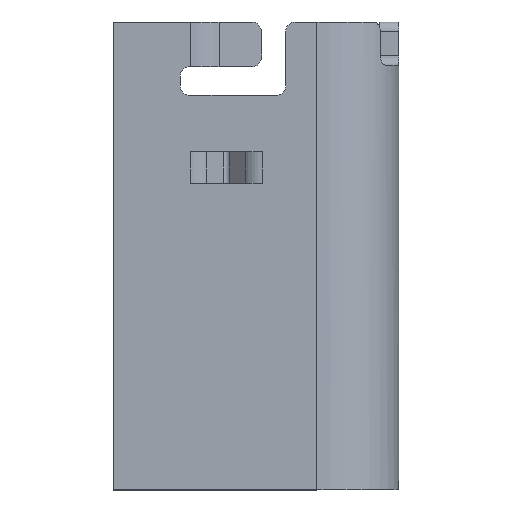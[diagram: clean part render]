
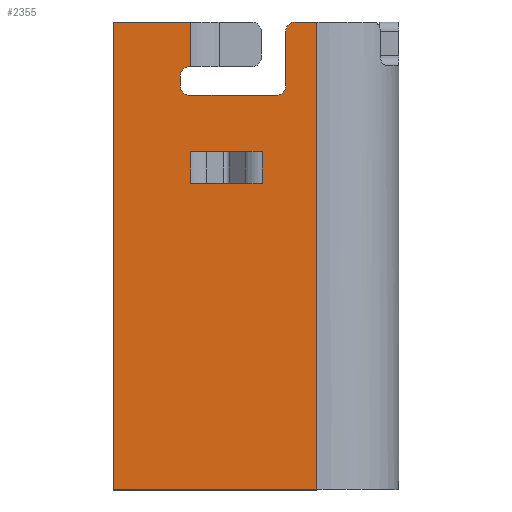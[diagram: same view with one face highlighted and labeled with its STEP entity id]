
A CAD part, top view. The second image highlights one B-rep face of the part: STEP entity #2355.
In plain terms, the highlighted planar face has unit normal (0, 0, 1).
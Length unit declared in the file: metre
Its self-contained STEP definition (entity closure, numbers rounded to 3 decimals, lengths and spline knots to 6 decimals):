
#51=PLANE('',#3229);
#116=LINE('',#4087,#350);
#117=LINE('',#4093,#351);
#118=LINE('',#4097,#352);
#122=LINE('',#4113,#356);
#128=LINE('',#4122,#362);
#130=LINE('',#4125,#364);
#133=LINE('',#4131,#367);
#135=LINE('',#4139,#369);
#140=LINE('',#4149,#374);
#144=LINE('',#4161,#378);
#169=LINE('',#4240,#403);
#212=LINE('',#4419,#446);
#213=LINE('',#4421,#447);
#214=LINE('',#4423,#448);
#350=VECTOR('',#3415,1.);
#351=VECTOR('',#3422,1.);
#352=VECTOR('',#3427,1.);
#356=VECTOR('',#3443,1.);
#362=VECTOR('',#3455,1.);
#364=VECTOR('',#3459,1.);
#367=VECTOR('',#3464,1.);
#369=VECTOR('',#3474,1.);
#374=VECTOR('',#3481,1.);
#378=VECTOR('',#3493,1.);
#403=VECTOR('',#3570,1.);
#446=VECTOR('',#3701,1.);
#447=VECTOR('',#3704,1.);
#448=VECTOR('',#3705,1.);
#854=ORIENTED_EDGE('',*,*,#1298,.F.);
#855=ORIENTED_EDGE('',*,*,#1282,.F.);
#856=ORIENTED_EDGE('',*,*,#1300,.F.);
#857=ORIENTED_EDGE('',*,*,#1279,.T.);
#858=ORIENTED_EDGE('',*,*,#1321,.T.);
#859=ORIENTED_EDGE('',*,*,#1318,.F.);
#860=ORIENTED_EDGE('',*,*,#1315,.T.);
#861=ORIENTED_EDGE('',*,*,#1312,.F.);
#862=ORIENTED_EDGE('',*,*,#1304,.F.);
#863=ORIENTED_EDGE('',*,*,#1303,.F.);
#864=ORIENTED_EDGE('',*,*,#1290,.T.);
#865=ORIENTED_EDGE('',*,*,#1292,.F.);
#866=ORIENTED_EDGE('',*,*,#1284,.T.);
#867=ORIENTED_EDGE('',*,*,#1307,.F.);
#868=ORIENTED_EDGE('',*,*,#1426,.F.);
#869=ORIENTED_EDGE('',*,*,#1427,.T.);
#870=ORIENTED_EDGE('',*,*,#1428,.T.);
#871=ORIENTED_EDGE('',*,*,#1357,.F.);
#1279=EDGE_CURVE('',#1608,#1607,#116,.T.);
#1282=EDGE_CURVE('',#1609,#1610,#117,.T.);
#1284=EDGE_CURVE('',#1611,#1612,#118,.T.);
#1290=EDGE_CURVE('',#1613,#1616,#1812,.T.);
#1292=EDGE_CURVE('',#1611,#1616,#122,.T.);
#1298=EDGE_CURVE('',#1610,#1607,#128,.T.);
#1300=EDGE_CURVE('',#1608,#1609,#130,.T.);
#1303=EDGE_CURVE('',#1613,#1617,#133,.T.);
#1304=EDGE_CURVE('',#1617,#1619,#1813,.T.);
#1307=EDGE_CURVE('',#1621,#1612,#135,.T.);
#1312=EDGE_CURVE('',#1619,#1623,#140,.T.);
#1315=EDGE_CURVE('',#1625,#1623,#1816,.T.);
#1318=EDGE_CURVE('',#1625,#1627,#144,.T.);
#1321=EDGE_CURVE('',#1629,#1627,#1818,.T.);
#1357=EDGE_CURVE('',#1629,#1654,#169,.T.);
#1426=EDGE_CURVE('',#1706,#1621,#212,.T.);
#1427=EDGE_CURVE('',#1706,#1707,#213,.T.);
#1428=EDGE_CURVE('',#1707,#1654,#214,.T.);
#1607=VERTEX_POINT('',#4086);
#1608=VERTEX_POINT('',#4088);
#1609=VERTEX_POINT('',#4092);
#1610=VERTEX_POINT('',#4094);
#1611=VERTEX_POINT('',#4098);
#1612=VERTEX_POINT('',#4099);
#1613=VERTEX_POINT('',#4104);
#1616=VERTEX_POINT('',#4109);
#1617=VERTEX_POINT('',#4128);
#1619=VERTEX_POINT('',#4134);
#1621=VERTEX_POINT('',#4140);
#1623=VERTEX_POINT('',#4146);
#1625=VERTEX_POINT('',#4152);
#1627=VERTEX_POINT('',#4158);
#1629=VERTEX_POINT('',#4164);
#1654=VERTEX_POINT('',#4235);
#1706=VERTEX_POINT('',#4418);
#1707=VERTEX_POINT('',#4422);
#1812=CIRCLE('',#3143,0.00015);
#1813=CIRCLE('',#3151,0.00015);
#1816=CIRCLE('',#3157,0.00015);
#1818=CIRCLE('',#3161,0.00015);
#1955=EDGE_LOOP('',(#854,#855,#856,#857));
#1956=EDGE_LOOP('',(#858,#859,#860,#861,#862,#863,#864,#865,#866,#867,#868,
#869,#870,#871));
#2073=FACE_BOUND('',#1955,.T.);
#2074=FACE_BOUND('',#1956,.T.);
#2355=ADVANCED_FACE('',(#2073,#2074),#51,.T.);
#3143=AXIS2_PLACEMENT_3D('',#4110,#3438,#3439);
#3151=AXIS2_PLACEMENT_3D('',#4133,#3467,#3468);
#3157=AXIS2_PLACEMENT_3D('',#4155,#3487,#3488);
#3161=AXIS2_PLACEMENT_3D('',#4167,#3499,#3500);
#3229=AXIS2_PLACEMENT_3D('',#4420,#3702,#3703);
#3415=DIRECTION('',(0.,-1.,0.));
#3422=DIRECTION('',(0.,-1.,0.));
#3427=DIRECTION('',(0.,1.,0.));
#3438=DIRECTION('',(0.,0.,-1.));
#3439=DIRECTION('',(-1.,0.,0.));
#3443=DIRECTION('',(-1.,0.,0.));
#3455=DIRECTION('',(1.,0.,0.));
#3459=DIRECTION('',(-1.,0.,0.));
#3464=DIRECTION('',(0.,-1.,0.));
#3467=DIRECTION('',(0.,0.,1.));
#3468=DIRECTION('',(0.,1.,0.));
#3474=DIRECTION('',(1.,0.,0.));
#3481=DIRECTION('',(1.,0.,0.));
#3487=DIRECTION('',(0.,0.,-1.));
#3488=DIRECTION('',(0.,1.,0.));
#3493=DIRECTION('',(0.,1.,0.));
#3499=DIRECTION('',(0.,0.,1.));
#3500=DIRECTION('',(0.,1.,0.));
#3570=DIRECTION('',(1.,0.,0.));
#3701=DIRECTION('',(0.,1.,0.));
#3702=DIRECTION('',(0.,0.,1.));
#3703=DIRECTION('',(-1.,0.,0.));
#3704=DIRECTION('',(1.,0.,0.));
#3705=DIRECTION('',(0.,1.,0.));
#4086=CARTESIAN_POINT('',(0.16901,-0.124475,0.004905));
#4087=CARTESIAN_POINT('',(0.16901,-0.124475,0.004905));
#4088=CARTESIAN_POINT('',(0.16901,-0.123975,0.004905));
#4092=CARTESIAN_POINT('',(0.16789,-0.123975,0.004905));
#4093=CARTESIAN_POINT('',(0.16789,-0.124475,0.004905));
#4094=CARTESIAN_POINT('',(0.16789,-0.124475,0.004905));
#4097=CARTESIAN_POINT('',(0.16789,-0.121945,0.004905));
#4098=CARTESIAN_POINT('',(0.16789,-0.122645,0.004905));
#4099=CARTESIAN_POINT('',(0.16789,-0.121945,0.004905));
#4104=CARTESIAN_POINT('',(0.16773,-0.122795,0.004905));
#4109=CARTESIAN_POINT('',(0.16788,-0.122645,0.004905));
#4110=CARTESIAN_POINT('',(0.16788,-0.122795,0.004905));
#4113=CARTESIAN_POINT('',(0.16789,-0.122645,0.004905));
#4122=CARTESIAN_POINT('',(0.16784,-0.124475,0.004905));
#4125=CARTESIAN_POINT('',(0.16906,-0.123975,0.004905));
#4128=CARTESIAN_POINT('',(0.16773,-0.122945,0.004905));
#4131=CARTESIAN_POINT('',(0.16773,-0.121945,0.004905));
#4133=CARTESIAN_POINT('',(0.16788,-0.122945,0.004905));
#4134=CARTESIAN_POINT('',(0.16788,-0.123095,0.004905));
#4139=CARTESIAN_POINT('',(0.16668,-0.121945,0.004905));
#4140=CARTESIAN_POINT('',(0.16668,-0.121945,0.004905));
#4146=CARTESIAN_POINT('',(0.16923,-0.123095,0.004905));
#4149=CARTESIAN_POINT('',(0.16773,-0.123095,0.004905));
#4152=CARTESIAN_POINT('',(0.16938,-0.122945,0.004905));
#4155=CARTESIAN_POINT('',(0.16923,-0.122945,0.004905));
#4158=CARTESIAN_POINT('',(0.16938,-0.122095,0.004905));
#4161=CARTESIAN_POINT('',(0.16938,-0.123095,0.004905));
#4164=CARTESIAN_POINT('',(0.16953,-0.121945,0.004905));
#4167=CARTESIAN_POINT('',(0.16953,-0.122095,0.004905));
#4235=CARTESIAN_POINT('',(0.16987,-0.121945,0.004905));
#4240=CARTESIAN_POINT('',(0.16668,-0.121945,0.004905));
#4418=CARTESIAN_POINT('',(0.16668,-0.129275,0.004905));
#4419=CARTESIAN_POINT('',(0.16668,-0.129275,0.004905));
#4420=CARTESIAN_POINT('',(0.16668,-0.129275,0.004905));
#4421=CARTESIAN_POINT('',(0.16668,-0.129275,0.004905));
#4422=CARTESIAN_POINT('',(0.16987,-0.129275,0.004905));
#4423=CARTESIAN_POINT('',(0.16987,-0.129275,0.004905));
